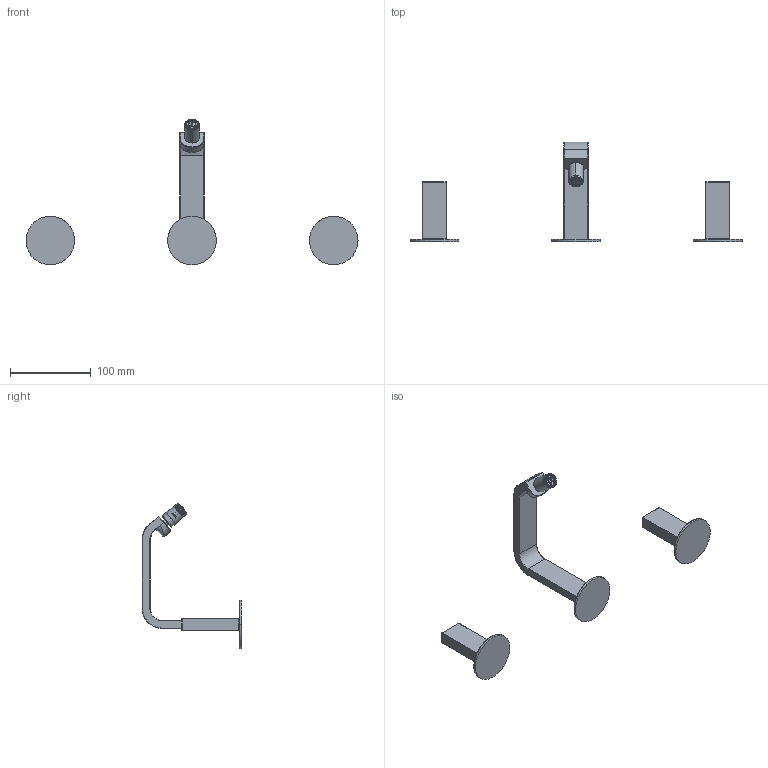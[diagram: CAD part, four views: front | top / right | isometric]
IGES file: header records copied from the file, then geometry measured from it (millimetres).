
Start section:  PTC IGES file: 53104.igs
Global section: file name: 53104.igs; native system: Creo Parametric by PTC Inc.; preprocessor: 2018100; author: carloff; organization: Unknown; date: 20200917.103416; units: millimetre
Bounding box: 410 x 123 x 179.91 mm (x, y, z)
Surface area: 63492 mm2 (no closed solid volume)
Topology: 0 solids, 0 shells, 2000 faces, 11626 edges, 11612 vertices
Faces by surface type: bspline 1608, revolution 392
